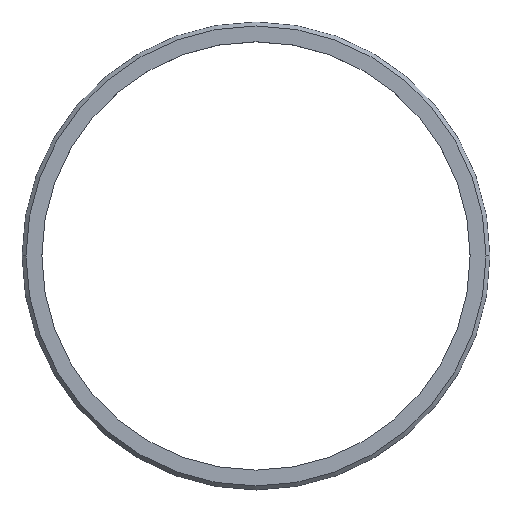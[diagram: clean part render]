
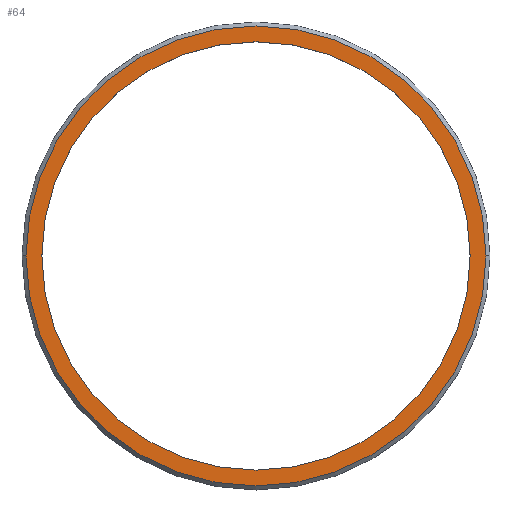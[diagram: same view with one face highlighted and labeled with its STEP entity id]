
A CAD part, top view. The second image highlights one B-rep face of the part: STEP entity #64.
In plain terms, the highlighted planar face has unit normal (0, 0, 1).
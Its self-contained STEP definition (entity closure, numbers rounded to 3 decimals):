
#58=FACE_BOUND('',#84,.F.);
#60=PLANE('',#214);
#64=ADVANCED_FACE('',(#58,#74),#60,.T.);
#74=FACE_OUTER_BOUND('',#85,.F.);
#84=EDGE_LOOP('',(#102,#103));
#85=EDGE_LOOP('',(#104,#105));
#102=ORIENTED_EDGE('',*,*,#168,.T.);
#103=ORIENTED_EDGE('',*,*,#162,.T.);
#104=ORIENTED_EDGE('',*,*,#157,.F.);
#105=ORIENTED_EDGE('',*,*,#154,.F.);
#154=EDGE_CURVE('',#197,#196,#174,.T.);
#157=EDGE_CURVE('',#196,#197,#177,.T.);
#162=EDGE_CURVE('',#189,#188,#182,.T.);
#168=EDGE_CURVE('',#188,#189,#184,.T.);
#174=CIRCLE('',#200,29.);
#177=CIRCLE('',#203,29.);
#182=CIRCLE('',#208,27.);
#184=CIRCLE('',#210,27.);
#188=VERTEX_POINT('',#282);
#189=VERTEX_POINT('',#283);
#196=VERTEX_POINT('',#290);
#197=VERTEX_POINT('',#291);
#200=AXIS2_PLACEMENT_3D('',#292,#225,#226);
#203=AXIS2_PLACEMENT_3D('',#295,#231,#232);
#208=AXIS2_PLACEMENT_3D('',#300,#241,#242);
#210=AXIS2_PLACEMENT_3D('',#306,#249,#250);
#214=AXIS2_PLACEMENT_3D('',#314,#261,#262);
#225=DIRECTION('',(0.,0.,1.));
#226=DIRECTION('',(-1.,0.,0.));
#231=DIRECTION('',(0.,0.,1.));
#232=DIRECTION('',(1.,0.,0.));
#241=DIRECTION('',(0.,0.,1.));
#242=DIRECTION('',(1.,0.,0.));
#249=DIRECTION('',(0.,0.,1.));
#250=DIRECTION('',(-1.,0.,0.));
#261=DIRECTION('',(0.,0.,1.));
#262=DIRECTION('',(0.,-1.,0.));
#282=CARTESIAN_POINT('',(170.042,35.63,-7.5));
#283=CARTESIAN_POINT('',(224.042,35.63,-7.5));
#290=CARTESIAN_POINT('',(226.042,35.63,-7.5));
#291=CARTESIAN_POINT('',(168.042,35.63,-7.5));
#292=CARTESIAN_POINT('',(197.042,35.63,-7.5));
#295=CARTESIAN_POINT('',(197.042,35.63,-7.5));
#300=CARTESIAN_POINT('',(197.042,35.63,-7.5));
#306=CARTESIAN_POINT('',(197.042,35.63,-7.5));
#314=CARTESIAN_POINT('',(166.952,65.72,-7.5));
